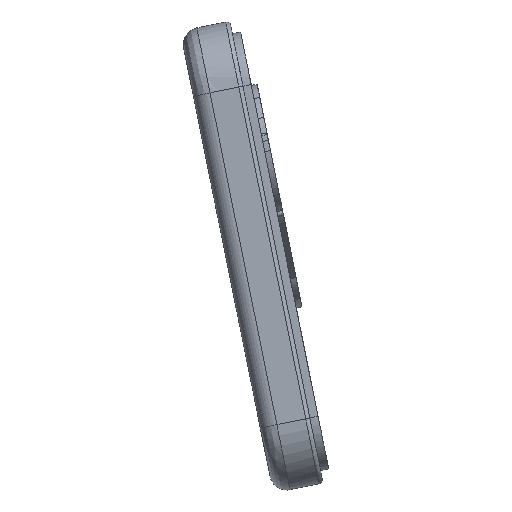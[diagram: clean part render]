
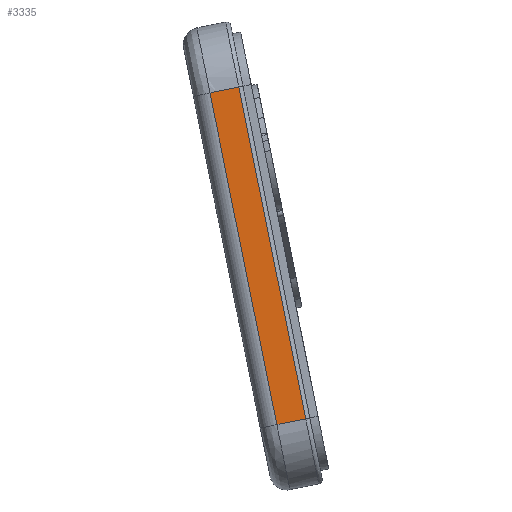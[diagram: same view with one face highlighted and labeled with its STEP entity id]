
A CAD part, front view. The second image highlights one B-rep face of the part: STEP entity #3335.
In plain terms, the highlighted planar face has unit normal (0, -1, 0).
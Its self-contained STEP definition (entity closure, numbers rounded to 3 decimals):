
#3217=CARTESIAN_POINT('',(2532.073,252.295,1658.157));
#3218=VERTEX_POINT('',#3217);
#3274=CARTESIAN_POINT('',(2532.479,252.295,1658.239));
#3275=VERTEX_POINT('',#3274);
#3276=CARTESIAN_POINT('',(2532.479,252.295,1658.239));
#3277=CARTESIAN_POINT('',(2532.073,252.295,1658.157));
#3278=B_SPLINE_CURVE_WITH_KNOTS('',1,(#3276,#3277),.UNSPECIFIED.,.F.,.F.,(2,2),(0.,1.),.UNSPECIFIED.);
#3279=EDGE_CURVE('',#3275,#3218,#3278,.T.);
#3281=CARTESIAN_POINT('',(2533.788,252.295,1658.503));
#3282=VERTEX_POINT('',#3281);
#3283=CARTESIAN_POINT('',(2533.788,252.295,1658.503));
#3284=CARTESIAN_POINT('',(2532.479,252.295,1658.239));
#3285=B_SPLINE_CURVE_WITH_KNOTS('',1,(#3283,#3284),.UNSPECIFIED.,.F.,.F.,(2,2),(-0.275,-0.141),.UNSPECIFIED.);
#3286=EDGE_CURVE('',#3282,#3275,#3285,.T.);
#3299=CARTESIAN_POINT('',(2534.551,252.295,1648.396));
#3300=DIRECTION('',(0.,-1.,0.));
#3301=DIRECTION('',(0.301,0.,-0.954));
#3302=AXIS2_PLACEMENT_3D('',#3299,#3300,#3301);
#3303=PLANE('',#3302);
#3304=ORIENTED_EDGE('',*,*,#3279,.T.);
#3305=CARTESIAN_POINT('',(2536.049,252.295,1638.437));
#3306=VERTEX_POINT('',#3305);
#3307=CARTESIAN_POINT('',(2532.073,252.295,1658.157));
#3308=DIRECTION('',(0.198,0.,-0.98));
#3309=VECTOR('',#3308,20.117);
#3310=LINE('',#3307,#3309);
#3311=EDGE_CURVE('',#3218,#3306,#3310,.T.);
#3312=ORIENTED_EDGE('',*,*,#3311,.T.);
#3313=CARTESIAN_POINT('',(2536.455,252.295,1638.519));
#3314=VERTEX_POINT('',#3313);
#3315=CARTESIAN_POINT('',(2536.455,252.295,1638.519));
#3316=CARTESIAN_POINT('',(2536.049,252.295,1638.437));
#3317=B_SPLINE_CURVE_WITH_KNOTS('',1,(#3315,#3316),.UNSPECIFIED.,.F.,.F.,(2,2),(0.,1.),.UNSPECIFIED.);
#3318=EDGE_CURVE('',#3314,#3306,#3317,.T.);
#3319=ORIENTED_EDGE('',*,*,#3318,.F.);
#3320=CARTESIAN_POINT('',(2537.764,252.295,1638.783));
#3321=VERTEX_POINT('',#3320);
#3322=CARTESIAN_POINT('',(2536.455,252.295,1638.519));
#3323=CARTESIAN_POINT('',(2537.764,252.295,1638.783));
#3324=B_SPLINE_CURVE_WITH_KNOTS('',1,(#3322,#3323),.UNSPECIFIED.,.F.,.F.,(2,2),(0.,0.134),.UNSPECIFIED.);
#3325=EDGE_CURVE('',#3314,#3321,#3324,.T.);
#3326=ORIENTED_EDGE('',*,*,#3325,.T.);
#3327=CARTESIAN_POINT('',(2537.764,252.295,1638.783));
#3328=CARTESIAN_POINT('',(2533.788,252.295,1658.503));
#3329=B_SPLINE_CURVE_WITH_KNOTS('',1,(#3327,#3328),.UNSPECIFIED.,.F.,.F.,(2,2),(0.,1.),.UNSPECIFIED.);
#3330=EDGE_CURVE('',#3321,#3282,#3329,.T.);
#3331=ORIENTED_EDGE('',*,*,#3330,.T.);
#3332=ORIENTED_EDGE('',*,*,#3286,.T.);
#3333=EDGE_LOOP('',(#3304,#3312,#3319,#3326,#3331,#3332));
#3334=FACE_BOUND('',#3333,.T.);
#3335=ADVANCED_FACE('',(#3334),#3303,.T.);
